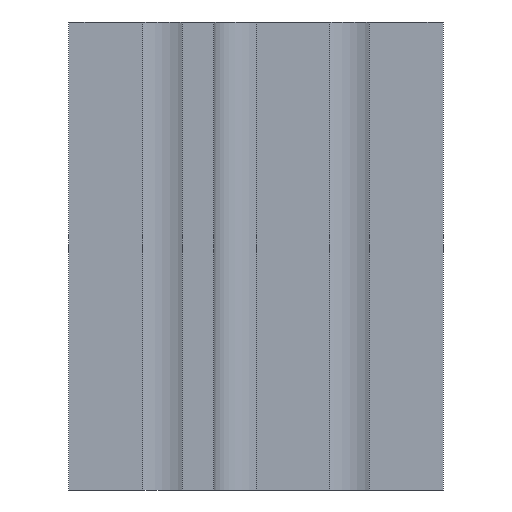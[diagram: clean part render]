
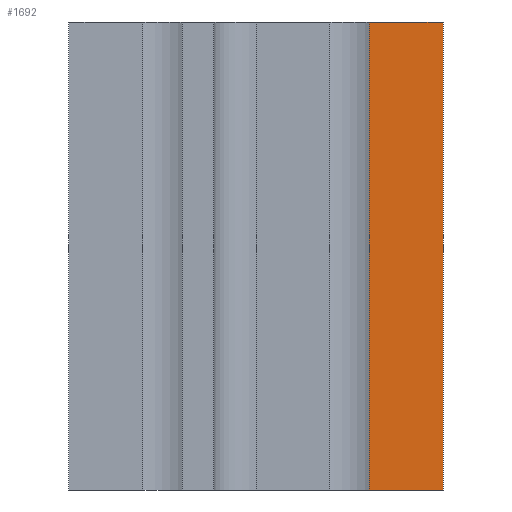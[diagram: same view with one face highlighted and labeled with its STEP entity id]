
A CAD part, front view. The second image highlights one B-rep face of the part: STEP entity #1692.
In plain terms, the highlighted planar face has unit normal (0, -1, 0).
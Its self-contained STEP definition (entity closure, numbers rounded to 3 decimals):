
#267=ORIENTED_EDGE('',*,*,#714,.F.);
#268=ORIENTED_EDGE('',*,*,#713,.T.);
#269=ORIENTED_EDGE('',*,*,#715,.F.);
#270=ORIENTED_EDGE('',*,*,#716,.F.);
#713=EDGE_CURVE('',#917,#918,#1077,.T.);
#714=EDGE_CURVE('',#917,#919,#1078,.T.);
#715=EDGE_CURVE('',#920,#918,#1079,.T.);
#716=EDGE_CURVE('',#919,#920,#1080,.T.);
#917=VERTEX_POINT('',#2615);
#918=VERTEX_POINT('',#2617);
#919=VERTEX_POINT('',#2621);
#920=VERTEX_POINT('',#2623);
#1077=LINE('',#2618,#1265);
#1078=LINE('',#2620,#1266);
#1079=LINE('',#2622,#1267);
#1080=LINE('',#2624,#1268);
#1265=VECTOR('',#2148,1000.);
#1266=VECTOR('',#2151,1000.);
#1267=VECTOR('',#2152,1000.);
#1268=VECTOR('',#2153,1000.);
#1421=EDGE_LOOP('',(#267,#268,#269,#270));
#1531=FACE_BOUND('',#1421,.T.);
#1612=PLANE('',#1834);
#1692=ADVANCED_FACE('',(#1531),#1612,.T.);
#1834=AXIS2_PLACEMENT_3D('',#2619,#2149,#2150);
#2148=DIRECTION('',(0.,0.,1.));
#2149=DIRECTION('',(0.,-1.,0.));
#2150=DIRECTION('',(1.,0.,0.));
#2151=DIRECTION('',(-1.,0.,0.));
#2152=DIRECTION('',(1.,0.,0.));
#2153=DIRECTION('',(0.,0.,1.));
#2615=CARTESIAN_POINT('',(40.,-40.,-50.));
#2617=CARTESIAN_POINT('',(40.,-40.,50.));
#2618=CARTESIAN_POINT('',(40.,-40.,0.));
#2619=CARTESIAN_POINT('',(24.2,-40.,0.));
#2620=CARTESIAN_POINT('',(40.,-40.,-50.));
#2621=CARTESIAN_POINT('',(24.2,-40.,-50.));
#2622=CARTESIAN_POINT('',(40.,-40.,50.));
#2623=CARTESIAN_POINT('',(24.2,-40.,50.));
#2624=CARTESIAN_POINT('',(24.2,-40.,0.));
